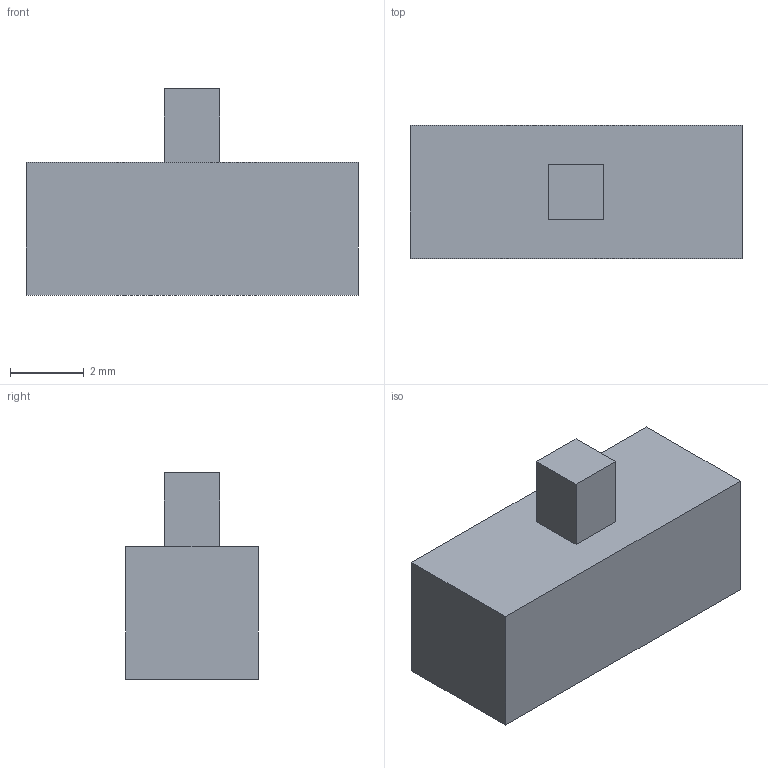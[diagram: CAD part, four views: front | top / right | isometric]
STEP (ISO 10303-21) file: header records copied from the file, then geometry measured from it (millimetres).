
FILE_DESCRIPTION(('Open CASCADE Model'),'2;1');
FILE_NAME('Open CASCADE Shape Model','2026-10-29T22:07:13',('Author'),( 'Open CASCADE'),'Open CASCADE STEP processor 8.0','Open CASCADE 8.0' ,'Unknown');
FILE_SCHEMA(('AUTOMOTIVE_DESIGN { 1 0 10303 214 1 1 1 1 }'));
Length unit declared in the file: millimetre
Products named in the file (2): Nominal package seating datum z0; body 9x3.6x3.6mm; Nominal centered actuator 1.5sq x2mm; no tolerance guarantee
Bounding box: 9 x 3.6 x 5.6 mm (x, y, z)
Volume: 121.1 mm3; surface area: 172 mm2
Topology: 2 solids, 2 shells, 12 faces, 24 edges, 16 vertices
Faces by surface type: plane 12
Entity records: 660 total; most frequent: CARTESIAN_POINT 101, DIRECTION 98, LINE 72, VECTOR 72, ORIENTED_EDGE 48, PCURVE 48, DEFINITIONAL_REPRESENTATION 48, EDGE_CURVE 24
